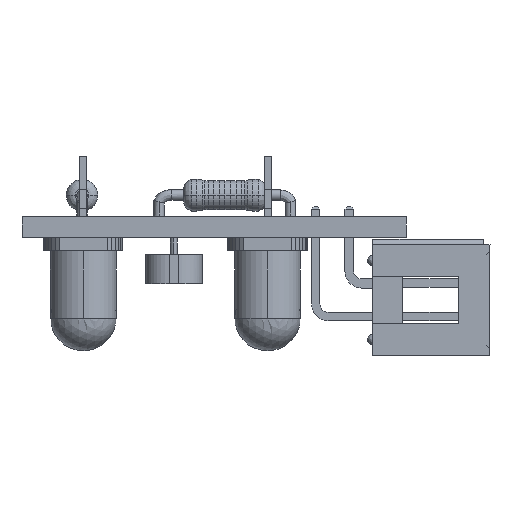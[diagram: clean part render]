
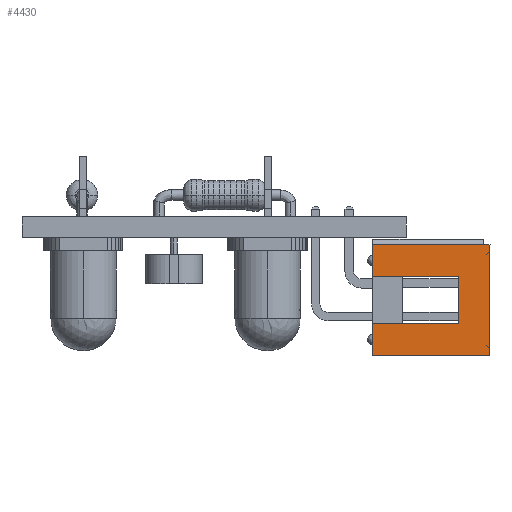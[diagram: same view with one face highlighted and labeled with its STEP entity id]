
A CAD part, left-side view. The second image highlights one B-rep face of the part: STEP entity #4430.
In plain terms, the highlighted planar face has unit normal (-1, 0, 0).
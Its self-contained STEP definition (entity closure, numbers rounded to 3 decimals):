
#3569 = VERTEX_POINT('',#3570);
#3570 = CARTESIAN_POINT('',(-15.55,5.47,-2.27));
#3576 = EDGE_CURVE('',#3569,#3577,#3579,.T.);
#3577 = VERTEX_POINT('',#3578);
#3578 = CARTESIAN_POINT('',(-15.55,5.47,6.63));
#3579 = LINE('',#3580,#3581);
#3580 = CARTESIAN_POINT('',(-15.55,5.47,-2.27));
#3581 = VECTOR('',#3582,1.);
#3582 = DIRECTION('',(0.,-0.,1.));
#4164 = VERTEX_POINT('',#4165);
#4165 = CARTESIAN_POINT('',(-15.55,-2.93,-2.27));
#4171 = EDGE_CURVE('',#4172,#4164,#4174,.T.);
#4172 = VERTEX_POINT('',#4173);
#4173 = CARTESIAN_POINT('',(-15.55,-0.53,-2.27));
#4174 = LINE('',#4175,#4176);
#4175 = CARTESIAN_POINT('',(-15.55,1.27,-2.27));
#4176 = VECTOR('',#4177,1.);
#4177 = DIRECTION('',(0.,-1.,-0.));
#4196 = VERTEX_POINT('',#4197);
#4197 = CARTESIAN_POINT('',(-15.55,3.07,-2.27));
#4203 = EDGE_CURVE('',#3569,#4196,#4204,.T.);
#4204 = LINE('',#4205,#4206);
#4205 = CARTESIAN_POINT('',(-15.55,1.27,-2.27));
#4206 = VECTOR('',#4207,1.);
#4207 = DIRECTION('',(0.,-1.,-0.));
#4346 = EDGE_CURVE('',#3577,#4347,#4349,.T.);
#4347 = VERTEX_POINT('',#4348);
#4348 = CARTESIAN_POINT('',(-15.55,-2.93,6.63));
#4349 = LINE('',#4350,#4351);
#4350 = CARTESIAN_POINT('',(-15.55,1.27,6.63));
#4351 = VECTOR('',#4352,1.);
#4352 = DIRECTION('',(0.,-1.,-0.));
#4430 = ADVANCED_FACE('',(#4431),#4465,.T.);
#4431 = FACE_BOUND('',#4432,.T.);
#4432 = EDGE_LOOP('',(#4433,#4434,#4435,#4443,#4451,#4457,#4458,#4464));
#4433 = ORIENTED_EDGE('',*,*,#3576,.F.);
#4434 = ORIENTED_EDGE('',*,*,#4203,.T.);
#4435 = ORIENTED_EDGE('',*,*,#4436,.T.);
#4436 = EDGE_CURVE('',#4196,#4437,#4439,.T.);
#4437 = VERTEX_POINT('',#4438);
#4438 = CARTESIAN_POINT('',(-15.55,3.07,4.23));
#4439 = LINE('',#4440,#4441);
#4440 = CARTESIAN_POINT('',(-15.55,3.07,-2.27));
#4441 = VECTOR('',#4442,1.);
#4442 = DIRECTION('',(0.,0.,1.));
#4443 = ORIENTED_EDGE('',*,*,#4444,.T.);
#4444 = EDGE_CURVE('',#4437,#4445,#4447,.T.);
#4445 = VERTEX_POINT('',#4446);
#4446 = CARTESIAN_POINT('',(-15.55,-0.53,4.23));
#4447 = LINE('',#4448,#4449);
#4448 = CARTESIAN_POINT('',(-15.55,-2.93,4.23));
#4449 = VECTOR('',#4450,1.);
#4450 = DIRECTION('',(-0.,-1.,0.));
#4451 = ORIENTED_EDGE('',*,*,#4452,.T.);
#4452 = EDGE_CURVE('',#4445,#4172,#4453,.T.);
#4453 = LINE('',#4454,#4455);
#4454 = CARTESIAN_POINT('',(-15.55,-0.53,-2.27));
#4455 = VECTOR('',#4456,1.);
#4456 = DIRECTION('',(-0.,-0.,-1.));
#4457 = ORIENTED_EDGE('',*,*,#4171,.T.);
#4458 = ORIENTED_EDGE('',*,*,#4459,.T.);
#4459 = EDGE_CURVE('',#4164,#4347,#4460,.T.);
#4460 = LINE('',#4461,#4462);
#4461 = CARTESIAN_POINT('',(-15.55,-2.93,-2.27));
#4462 = VECTOR('',#4463,1.);
#4463 = DIRECTION('',(0.,0.,1.));
#4464 = ORIENTED_EDGE('',*,*,#4346,.F.);
#4465 = PLANE('',#4466);
#4466 = AXIS2_PLACEMENT_3D('',#4467,#4468,#4469);
#4467 = CARTESIAN_POINT('',(-15.55,-2.93,-2.27));
#4468 = DIRECTION('',(-1.,0.,0.));
#4469 = DIRECTION('',(0.,0.,1.));
